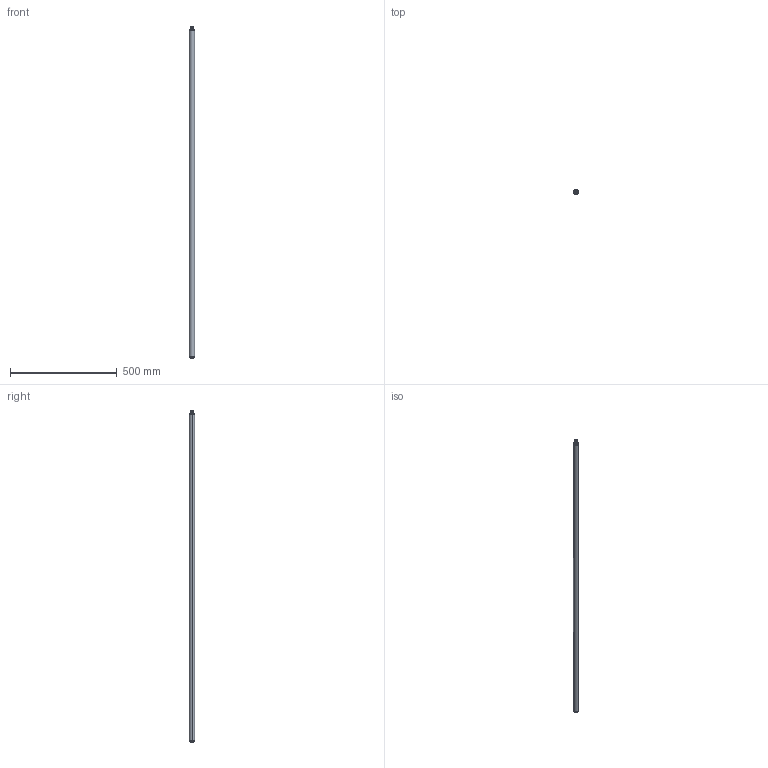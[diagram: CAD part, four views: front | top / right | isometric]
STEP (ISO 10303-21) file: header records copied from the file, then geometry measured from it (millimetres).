
FILE_DESCRIPTION((''),'2;1');
FILE_NAME('TNC-1055_SW0001','2025-08-07T14:25:29',('Piccioli'),(''),'CREO PARAMETRIC BY PTC INC, 2025010','CREO PARAMETRIC BY PTC INC, 2025010','');
FILE_SCHEMA(('CONFIG_CONTROL_DESIGN'));
Length unit declared in the file: millimetre
Products named in the file (1): TNC-1055_SW0001
Bounding box: 24 x 24 x 1554 mm (x, y, z)
Surface area: 116493.2 mm2 (no closed solid volume)
Topology: 0 solids, 12 shells, 22 faces, 115 edges, 101 vertices
Faces by surface type: plane 10, torus 6, cylinder 6
Entity records: 1500 total; most frequent: CARTESIAN_POINT 608, DIRECTION 178, ORIENTED_EDGE 133, EDGE_CURVE 115, VERTEX_POINT 101, AXIS2_PLACEMENT_3D 65, VECTOR 48, LINE 48
